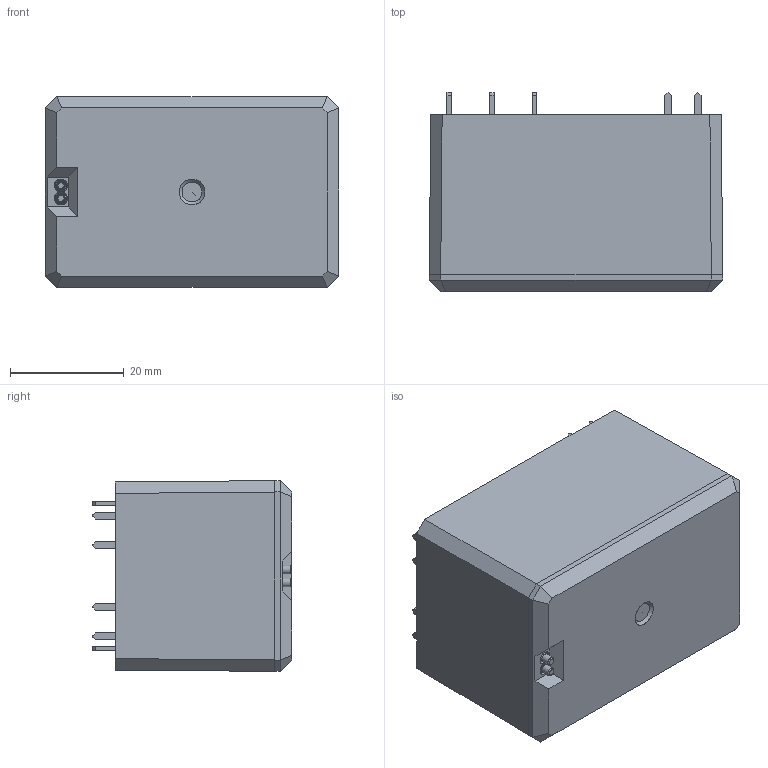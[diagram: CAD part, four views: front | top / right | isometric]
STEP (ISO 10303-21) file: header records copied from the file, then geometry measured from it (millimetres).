
FILE_DESCRIPTION(('STEP AP214'),'2;1');
FILE_NAME('6622.stp','2011-04-21T16:45:49',(''),(''),'2007.1.106','THINKDESIGN','');
FILE_SCHEMA(('AUTOMOTIVE_DESIGN'));
Length unit declared in the file: millimetre
Products named in the file (1): None
Bounding box: 51.49 x 35 x 33.49 mm (x, y, z)
Surface area: 9636.4 mm2 (no closed solid volume)
Topology: 0 solids, 0 shells, 288 faces, 1574 edges, 1566 vertices
Faces by surface type: plane 174, bspline 80, cylinder 34
Full cylindrical faces by diameter (mm): 1.5 x2
Entity records: 16871 total; most frequent: CARTESIAN_POINT 6140, DIRECTION 1639, COMPOSITE_CURVE_SEGMENT 1570, TRIMMED_CURVE 1150, VECTOR 1083, LINE 1083, B_SPLINE_CURVE_WITH_KNOTS 326, STYLED_ITEM 291
